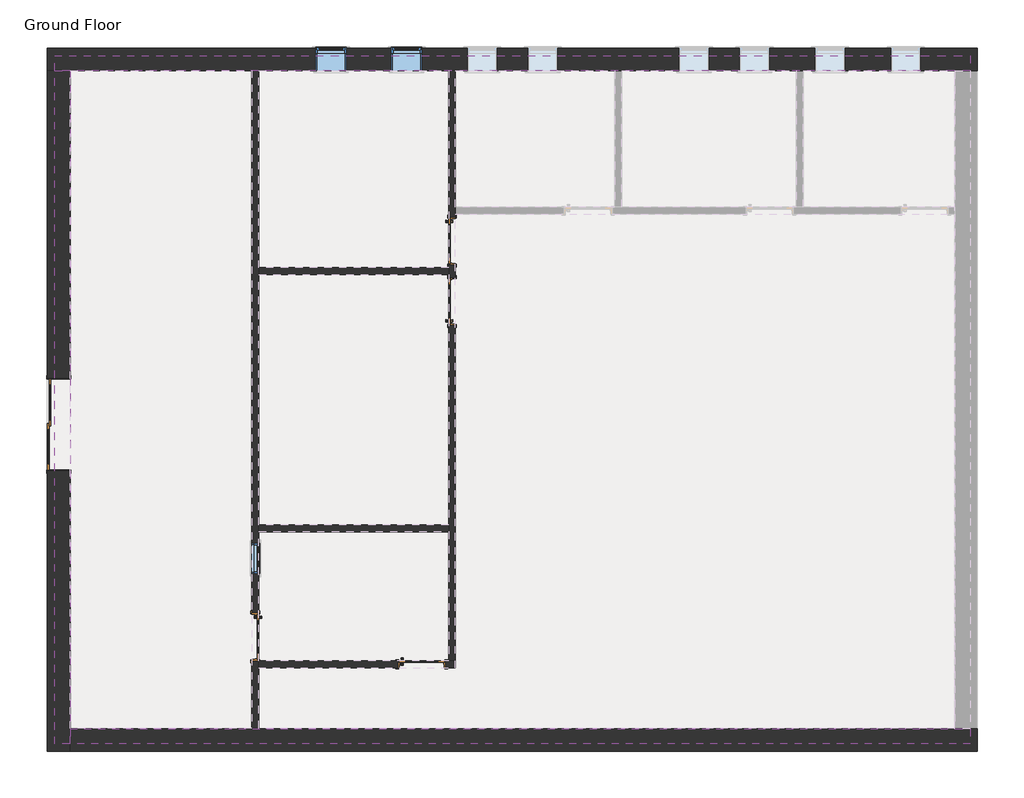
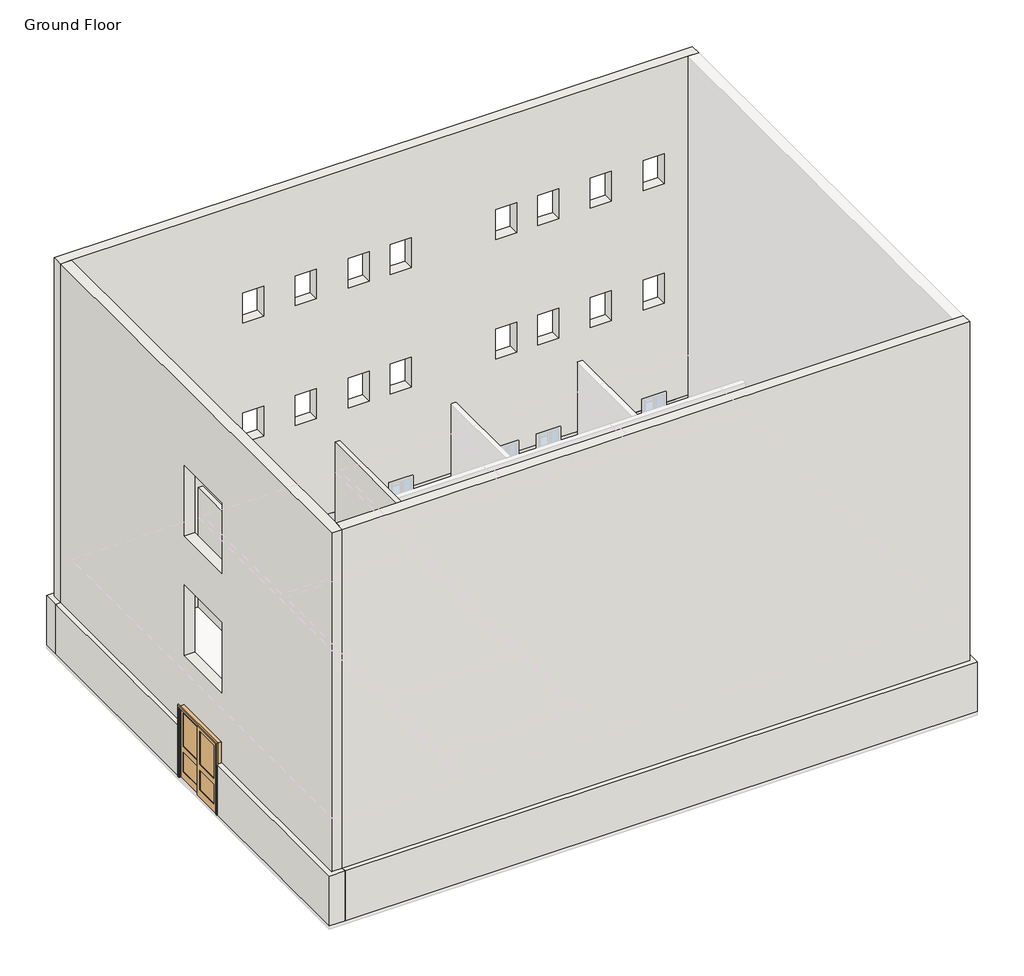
# One storey, part 1 of 2: 11 walls, 5 doors, 3 windows.
"""IFC4 building model written with IfcOpenShell, lengths in millimetres."""

from ifc_helpers import new_model, si_unit, origin, origin_with_axes, place, context, project, spatial, polyline, outline, extrude, faceted_brep, transform, mapped, element, save
from components import door_5c496fa4, door_918c180d, door_79dd3e86, window_d7bc73cd, window_2d4a29d0

model = new_model("IFC4")

# Units and contexts
model_context = context("Model", 3, world=origin())
ifc_project = project(units=[si_unit("LENGTHUNIT", "METRE", prefix="MILLI")], contexts=[model_context])

# Site, building, storey
site = spatial("IfcSite", under=ifc_project)
building = spatial("IfcBuilding", under=site)
storey = spatial("IfcBuildingStorey", under=building, Name="Ground Floor", Elevation=0.0)

# Doors
placement = place(None, origin())
door_shape = door_5c496fa4(model_context)
element("IfcDoor", 1, ObjectType="Door-Interior-Double-Sliding-2_Panel-Wood : 72\" x 84\"", at=placement, inside=storey, context=model_context, shape_type="MappedRepresentation", body=[
    mapped(door_shape, transform((-18194.5597136, 4559.7577587, 0.0), x_axis=(0.0, 1.0, 0.0), y_axis=(-1.0, 0.0, 0.0), z_axis=(0.0, 0.0, 1.0))),
])
door_2_shape = door_918c180d(model_context)
element("IfcDoor", 2, ObjectType="Door-Interior-Single-Full Glass-Wood : 36\" x 84\"", at=placement, inside=storey, context=model_context, shape_type="MappedRepresentation", body=[
    mapped(door_2_shape, transform((-14225.8097136, 277.7205992, 0.0), x_axis=(0.0, -1.0, 0.0), y_axis=(1.0, 0.0, 0.0), z_axis=(0.0, 0.0, 1.0))),
])
element("IfcDoor", 3, ObjectType="Door-Interior-Single-Full Glass-Wood : 36\" x 84\"", at=placement, inside=storey, context=model_context, shape_type="MappedRepresentation", body=[
    mapped(door_2_shape, transform((-10269.7597136, 7040.4705992, 0.0), x_axis=(0.0, 1.0, 0.0), y_axis=(-1.0, 0.0, 0.0), z_axis=(0.0, 0.0, 1.0))),
])
element("IfcDoor", 4, ObjectType="Door-Interior-Single-Full Glass-Wood : 36\" x 84\"", at=placement, inside=storey, context=model_context, shape_type="MappedRepresentation", body=[
    mapped(door_2_shape, transform((-10876.1847136, -271.5544008, 0.0), x_axis=(1.0, 0.0, 0.0), y_axis=(0.0, 1.0, 0.0), z_axis=(0.0, 0.0, 1.0))),
])
door_3_shape = door_79dd3e86(model_context)
element("IfcDoor", 5, ObjectType="Door-Interior-Single-Full Glass-Wood : 36\" x 84\"", at=placement, inside=storey, context=model_context, shape_type="MappedRepresentation", body=[
    mapped(door_3_shape, transform((-10269.7597136, 8259.6705992, 0.0), x_axis=(0.0, -1.0, 0.0), y_axis=(1.0, 0.0, 0.0), z_axis=(0.0, 0.0, 1.0))),
])

# Walls
element("IfcWall", 6, ObjectType="Exterior - CMU on Mtl. Stud", at=placement, inside=storey, context=model_context, shape_type="Brep", body=[
    faceted_brep([(-18418.3972136, 11690.2580992, 0.0), (-17964.3722136, 11690.2580992, 0.0), (-14298.8347136, 11690.2580992, 0.0), (-14159.1347136, 11690.2580992, 0.0), (-10336.4347136, 11690.2580992, 0.0), (-10196.7347136, 11690.2580992, 0.0), (-6983.6347136, 11690.2580992, 0.0), (-6843.9347136, 11690.2580992, 0.0), (-3326.0347136, 11690.2580992, 0.0), (-3186.3347136, 11690.2580992, 0.0), (-130.3972136, 11690.2580992, 0.0), (323.6277864, 11690.2580992, 0.0), (323.6277864, 11690.2580992, 1524.0), (180.7527864, 11690.2580992, 1524.0), (-130.3972136, 11690.2580992, 1524.0), (-817.7847136, 11690.2580992, 1524.0), (-817.7847136, 11690.2580992, 914.4), (-1427.3847136, 11690.2580992, 914.4), (-1427.3847136, 11690.2580992, 1524.0), (-2341.7847136, 11690.2580992, 1524.0), (-2341.7847136, 11690.2580992, 914.4), (-2951.3847136, 11690.2580992, 914.4), (-2951.3847136, 11690.2580992, 1524.0), (-3865.7847136, 11690.2580992, 1524.0), (-3865.7847136, 11690.2580992, 914.4), (-4475.3847136, 11690.2580992, 914.4), (-4475.3847136, 11690.2580992, 1524.0), (-5084.9847136, 11690.2580992, 1524.0), (-5084.9847136, 11690.2580992, 914.4), (-5694.5847136, 11690.2580992, 914.4), (-5694.5847136, 11690.2580992, 1524.0), (-8132.9847136, 11690.2580992, 1524.0), (-8132.9847136, 11690.2580992, 914.4), (-8742.5847136, 11690.2580992, 914.4), (-8742.5847136, 11690.2580992, 1524.0), (-9352.1847136, 11690.2580992, 1524.0), (-9352.1847136, 11690.2580992, 914.4), (-9961.7847136, 11690.2580992, 914.4), (-9961.7847136, 11690.2580992, 1524.0), (-10876.1847136, 11690.2580992, 1524.0), (-10876.1847136, 11690.2580992, 914.4), (-11485.7847136, 11690.2580992, 914.4), (-11485.7847136, 11690.2580992, 1524.0), (-12400.1847136, 11690.2580992, 1524.0), (-12400.1847136, 11690.2580992, 914.4), (-13009.7847136, 11690.2580992, 914.4), (-13009.7847136, 11690.2580992, 1524.0), (-17964.3722136, 11690.2580992, 1524.0), (-18275.5222136, 11690.2580992, 1524.0), (-18418.3972136, 11690.2580992, 1524.0), (323.6277864, 12144.2830992, 0.0), (-18418.3972136, 12144.2830992, 0.0), (-18418.3972136, 12144.2830992, 1524.0), (-13009.7847136, 12144.2830992, 1524.0), (-13009.7847136, 12144.2830992, 914.4), (-12400.1847136, 12144.2830992, 914.4), (-12400.1847136, 12144.2830992, 1524.0), (-11485.7847136, 12144.2830992, 1524.0), (-11485.7847136, 12144.2830992, 914.4), (-10876.1847136, 12144.2830992, 914.4), (-10876.1847136, 12144.2830992, 1524.0), (-9961.7847136, 12144.2830992, 1524.0), (-9961.7847136, 12144.2830992, 914.4), (-9352.1847136, 12144.2830992, 914.4), (-9352.1847136, 12144.2830992, 1524.0), (-8742.5847136, 12144.2830992, 1524.0), (-8742.5847136, 12144.2830992, 914.4), (-8132.9847136, 12144.2830992, 914.4), (-8132.9847136, 12144.2830992, 1524.0), (-5694.5847136, 12144.2830992, 1524.0), (-5694.5847136, 12144.2830992, 914.4), (-5084.9847136, 12144.2830992, 914.4), (-5084.9847136, 12144.2830992, 1524.0), (-4475.3847136, 12144.2830992, 1524.0), (-4475.3847136, 12144.2830992, 914.4), (-3865.7847136, 12144.2830992, 914.4), (-3865.7847136, 12144.2830992, 1524.0), (-2951.3847136, 12144.2830992, 1524.0), (-2951.3847136, 12144.2830992, 914.4), (-2341.7847136, 12144.2830992, 914.4), (-2341.7847136, 12144.2830992, 1524.0), (-1427.3847136, 12144.2830992, 1524.0), (-1427.3847136, 12144.2830992, 914.4), (-817.7847136, 12144.2830992, 914.4), (-817.7847136, 12144.2830992, 1524.0), (323.6277864, 12144.2830992, 1524.0), (-13009.7847136, 12001.4080992, 1524.0), (-817.7847136, 12001.4080992, 1524.0), (-1427.3847136, 12001.4080992, 1524.0), (-2341.7847136, 12001.4080992, 1524.0), (-2951.3847136, 12001.4080992, 1524.0), (-3865.7847136, 12001.4080992, 1524.0), (-4475.3847136, 12001.4080992, 1524.0), (-5084.9847136, 12001.4080992, 1524.0), (-5694.5847136, 12001.4080992, 1524.0), (-8132.9847136, 12001.4080992, 1524.0), (-8742.5847136, 12001.4080992, 1524.0), (-9352.1847136, 12001.4080992, 1524.0), (-9961.7847136, 12001.4080992, 1524.0), (-10876.1847136, 12001.4080992, 1524.0), (-11485.7847136, 12001.4080992, 1524.0), (-12400.1847136, 12001.4080992, 1524.0)], [[[0, 1, 2, 3, 4, 5, 6, 7, 8, 9, 10, 11, 12, 13, 14, 15, 16, 17, 18, 19, 20, 21, 22, 23, 24, 25, 26, 27, 28, 29, 30, 31, 32, 33, 34, 35, 36, 37, 38, 39, 40, 41, 42, 43, 44, 45, 46, 47, 48, 49]], [[50, 51, 52, 53, 54, 55, 56, 57, 58, 59, 60, 61, 62, 63, 64, 65, 66, 67, 68, 69, 70, 71, 72, 73, 74, 75, 76, 77, 78, 79, 80, 81, 82, 83, 84, 85]], [[11, 10, 9, 8, 7, 6, 5, 4, 3, 2, 1, 0, 51, 50]], [[52, 49, 48, 47, 46, 86, 53]], [[12, 85, 84, 87, 15, 14, 13]], [[18, 88, 81, 80, 89, 19]], [[22, 90, 77, 76, 91, 23]], [[26, 92, 73, 72, 93, 27]], [[30, 94, 69, 68, 95, 31]], [[34, 96, 65, 64, 97, 35]], [[38, 98, 61, 60, 99, 39]], [[42, 100, 57, 56, 101, 43]], [[0, 49, 52, 51]], [[12, 11, 50, 85]], [[83, 16, 15, 87, 84]], [[16, 83, 82, 17]], [[17, 82, 81, 88, 18]], [[79, 20, 19, 89, 80]], [[20, 79, 78, 21]], [[21, 78, 77, 90, 22]], [[75, 24, 23, 91, 76]], [[24, 75, 74, 25]], [[25, 74, 73, 92, 26]], [[71, 28, 27, 93, 72]], [[28, 71, 70, 29]], [[29, 70, 69, 94, 30]], [[33, 66, 65, 96, 34]], [[66, 33, 32, 67]], [[67, 32, 31, 95, 68]], [[37, 62, 61, 98, 38]], [[62, 37, 36, 63]], [[63, 36, 35, 97, 64]], [[41, 58, 57, 100, 42]], [[58, 41, 40, 59]], [[59, 40, 39, 99, 60]], [[45, 54, 53, 86, 46]], [[54, 45, 44, 55]], [[55, 44, 43, 101, 56]]]),
])
element("IfcWall", 7, ObjectType="Exterior - CMU on Mtl. Stud", at=placement, inside=storey, context=model_context, shape_type="Brep", body=[
    faceted_brep([(-17964.3722136, 11690.2580992, 0.0), (-17964.3722136, 11690.2580992, 1524.0), (-17964.3722136, 5499.5577587, 1524.0), (-17964.3722136, 5499.5577587, 0.0), (-18418.3972136, 11690.2580992, 1524.0), (-18418.3972136, 11690.2580992, 0.0), (-18418.3972136, 5499.5577587, 0.0), (-18418.3972136, 5499.5577587, 1524.0), (-18275.5222136, 11690.2580992, 1524.0), (-18275.5222136, 5499.5577587, 1524.0)], [[[0, 1, 2, 3]], [[4, 5, 6, 7]], [[5, 0, 3, 6]], [[1, 8, 4, 7, 9, 2]], [[1, 0, 5, 4, 8]], [[3, 2, 9, 7, 6]]]),
    faceted_brep([(-17964.3722136, -2025.7419008, 1524.0), (-17964.3722136, -2025.7419008, 0.0), (-17964.3722136, -1571.7169008, 0.0), (-17964.3722136, 3619.9577587, 0.0), (-17964.3722136, 3619.9577587, 1524.0), (-17964.3722136, -1571.7169008, 1524.0), (-17964.3722136, -1882.8669008, 1524.0), (-18418.3972136, -2025.7419008, 0.0), (-18418.3972136, -2025.7419008, 1524.0), (-18418.3972136, 3619.9577587, 1524.0), (-18418.3972136, 3619.9577587, 0.0), (-18275.5222136, 3619.9577587, 1524.0)], [[[0, 1, 2, 3, 4, 5, 6]], [[7, 8, 9, 10]], [[1, 7, 10, 3, 2]], [[8, 0, 6, 5, 4, 11, 9]], [[1, 0, 8, 7]], [[4, 3, 10, 9, 11]]]),
])
element("IfcWall", 8, ObjectType="Exterior - CMU on Mtl. Stud", at=placement, inside=storey, context=model_context, shape_type="Brep", body=[
    faceted_brep([(323.6277864, -1571.7169008, 0.0), (-130.3972136, -1571.7169008, 0.0), (-14159.1347136, -1571.7169008, 0.0), (-14298.8347136, -1571.7169008, 0.0), (-17964.3722136, -1571.7169008, 0.0), (-17964.3722136, -1571.7169008, 1524.0), (-130.3972136, -1571.7169008, 1524.0), (180.7527864, -1571.7169008, 1524.0), (323.6277864, -1571.7169008, 1524.0), (323.6277864, -2025.7419008, 0.0), (323.6277864, -2025.7419008, 1524.0), (-17964.3722136, -2025.7419008, 1524.0), (-17964.3722136, -2025.7419008, 0.0), (-17964.3722136, -1882.8669008, 1524.0)], [[[0, 1, 2, 3, 4, 5, 6, 7, 8]], [[9, 10, 11, 12]], [[4, 3, 2, 1, 0, 9, 12]], [[8, 7, 6, 5, 13, 11, 10]], [[0, 8, 10, 9]], [[5, 4, 12, 11, 13]]]),
])
element("IfcWall", 9, ObjectType="Exterior - EIFS on Mtl. Stud", at=placement, inside=storey, context=model_context, shape_type="Brep", body=[
    faceted_brep([(180.7527864, 11690.2580992, 11887.2), (-130.3972136, 11690.2580992, 11887.2), (-17964.3722136, 11690.2580992, 11887.2), (-18275.5222136, 11690.2580992, 11887.2), (-18275.5222136, 11690.2580992, 1524.0), (-17964.3722136, 11690.2580992, 1524.0), (-13009.7847136, 11690.2580992, 1524.0), (-13009.7847136, 11690.2580992, 1828.8), (-12400.1847136, 11690.2580992, 1828.8), (-12400.1847136, 11690.2580992, 1524.0), (-11485.7847136, 11690.2580992, 1524.0), (-11485.7847136, 11690.2580992, 1828.8), (-10876.1847136, 11690.2580992, 1828.8), (-10876.1847136, 11690.2580992, 1524.0), (-9961.7847136, 11690.2580992, 1524.0), (-9961.7847136, 11690.2580992, 1828.8), (-9352.1847136, 11690.2580992, 1828.8), (-9352.1847136, 11690.2580992, 1524.0), (-8742.5847136, 11690.2580992, 1524.0), (-8742.5847136, 11690.2580992, 1828.8), (-8132.9847136, 11690.2580992, 1828.8), (-8132.9847136, 11690.2580992, 1524.0), (-5694.5847136, 11690.2580992, 1524.0), (-5694.5847136, 11690.2580992, 1828.8), (-5084.9847136, 11690.2580992, 1828.8), (-5084.9847136, 11690.2580992, 1524.0), (-4475.3847136, 11690.2580992, 1524.0), (-4475.3847136, 11690.2580992, 1828.8), (-3865.7847136, 11690.2580992, 1828.8), (-3865.7847136, 11690.2580992, 1524.0), (-2951.3847136, 11690.2580992, 1524.0), (-2951.3847136, 11690.2580992, 1828.8), (-2341.7847136, 11690.2580992, 1828.8), (-2341.7847136, 11690.2580992, 1524.0), (-1427.3847136, 11690.2580992, 1524.0), (-1427.3847136, 11690.2580992, 1828.8), (-817.7847136, 11690.2580992, 1828.8), (-817.7847136, 11690.2580992, 1524.0), (-130.3972136, 11690.2580992, 1524.0), (180.7527864, 11690.2580992, 1524.0), (-8742.5847136, 11690.2580992, 4572.0), (-8742.5847136, 11690.2580992, 5486.4), (-8132.9847136, 11690.2580992, 5486.4), (-8132.9847136, 11690.2580992, 4572.0), (-9961.7847136, 11690.2580992, 4572.0), (-9961.7847136, 11690.2580992, 5486.4), (-9352.1847136, 11690.2580992, 5486.4), (-9352.1847136, 11690.2580992, 4572.0), (-11485.7847136, 11690.2580992, 4572.0), (-11485.7847136, 11690.2580992, 5486.4), (-10876.1847136, 11690.2580992, 5486.4), (-10876.1847136, 11690.2580992, 4572.0), (-13009.7847136, 11690.2580992, 4572.0), (-13009.7847136, 11690.2580992, 5486.4), (-12400.1847136, 11690.2580992, 5486.4), (-12400.1847136, 11690.2580992, 4572.0), (-5084.9847136, 11690.2580992, 5486.4), (-5084.9847136, 11690.2580992, 4572.0), (-5694.5847136, 11690.2580992, 4572.0), (-5694.5847136, 11690.2580992, 5486.4), (-3865.7847136, 11690.2580992, 5486.4), (-3865.7847136, 11690.2580992, 4572.0), (-4475.3847136, 11690.2580992, 4572.0), (-4475.3847136, 11690.2580992, 5486.4), (-2341.7847136, 11690.2580992, 5486.4), (-2341.7847136, 11690.2580992, 4572.0), (-2951.3847136, 11690.2580992, 4572.0), (-2951.3847136, 11690.2580992, 5486.4), (-817.7847136, 11690.2580992, 5486.4), (-817.7847136, 11690.2580992, 4572.0), (-1427.3847136, 11690.2580992, 4572.0), (-1427.3847136, 11690.2580992, 5486.4), (-8742.5847136, 11690.2580992, 8229.6), (-8742.5847136, 11690.2580992, 9144.0), (-8132.9847136, 11690.2580992, 9144.0), (-8132.9847136, 11690.2580992, 8229.6), (-9961.7847136, 11690.2580992, 8229.6), (-9961.7847136, 11690.2580992, 9144.0), (-9352.1847136, 11690.2580992, 9144.0), (-9352.1847136, 11690.2580992, 8229.6), (-11485.7847136, 11690.2580992, 8229.6), (-11485.7847136, 11690.2580992, 9144.0), (-10876.1847136, 11690.2580992, 9144.0), (-10876.1847136, 11690.2580992, 8229.6), (-13009.7847136, 11690.2580992, 8229.6), (-13009.7847136, 11690.2580992, 9144.0), (-12400.1847136, 11690.2580992, 9144.0), (-12400.1847136, 11690.2580992, 8229.6), (-5084.9847136, 11690.2580992, 9144.0), (-5084.9847136, 11690.2580992, 8229.6), (-5694.5847136, 11690.2580992, 8229.6), (-5694.5847136, 11690.2580992, 9144.0), (-3865.7847136, 11690.2580992, 9144.0), (-3865.7847136, 11690.2580992, 8229.6), (-4475.3847136, 11690.2580992, 8229.6), (-4475.3847136, 11690.2580992, 9144.0), (-2341.7847136, 11690.2580992, 9144.0), (-2341.7847136, 11690.2580992, 8229.6), (-2951.3847136, 11690.2580992, 8229.6), (-2951.3847136, 11690.2580992, 9144.0), (-817.7847136, 11690.2580992, 9144.0), (-817.7847136, 11690.2580992, 8229.6), (-1427.3847136, 11690.2580992, 8229.6), (-1427.3847136, 11690.2580992, 9144.0), (-18275.5222136, 12001.4080992, 11887.2), (180.7527864, 12001.4080992, 11887.2), (180.7527864, 12001.4080992, 1524.0), (-817.7847136, 12001.4080992, 1524.0), (-817.7847136, 12001.4080992, 1828.8), (-1427.3847136, 12001.4080992, 1828.8), (-1427.3847136, 12001.4080992, 1524.0), (-2341.7847136, 12001.4080992, 1524.0), (-2341.7847136, 12001.4080992, 1828.8), (-2951.3847136, 12001.4080992, 1828.8), (-2951.3847136, 12001.4080992, 1524.0), (-3865.7847136, 12001.4080992, 1524.0), (-3865.7847136, 12001.4080992, 1828.8), (-4475.3847136, 12001.4080992, 1828.8), (-4475.3847136, 12001.4080992, 1524.0), (-5084.9847136, 12001.4080992, 1524.0), (-5084.9847136, 12001.4080992, 1828.8), (-5694.5847136, 12001.4080992, 1828.8), (-5694.5847136, 12001.4080992, 1524.0), (-8132.9847136, 12001.4080992, 1524.0), (-8132.9847136, 12001.4080992, 1828.8), (-8742.5847136, 12001.4080992, 1828.8), (-8742.5847136, 12001.4080992, 1524.0), (-9352.1847136, 12001.4080992, 1524.0), (-9352.1847136, 12001.4080992, 1828.8), (-9961.7847136, 12001.4080992, 1828.8), (-9961.7847136, 12001.4080992, 1524.0), (-10876.1847136, 12001.4080992, 1524.0), (-10876.1847136, 12001.4080992, 1828.8), (-11485.7847136, 12001.4080992, 1828.8), (-11485.7847136, 12001.4080992, 1524.0), (-12400.1847136, 12001.4080992, 1524.0), (-12400.1847136, 12001.4080992, 1828.8), (-13009.7847136, 12001.4080992, 1828.8), (-13009.7847136, 12001.4080992, 1524.0), (-18275.5222136, 12001.4080992, 1524.0), (-8742.5847136, 12001.4080992, 5486.4), (-8742.5847136, 12001.4080992, 4572.0), (-8132.9847136, 12001.4080992, 4572.0), (-8132.9847136, 12001.4080992, 5486.4), (-9961.7847136, 12001.4080992, 5486.4), (-9961.7847136, 12001.4080992, 4572.0), (-9352.1847136, 12001.4080992, 4572.0), (-9352.1847136, 12001.4080992, 5486.4), (-11485.7847136, 12001.4080992, 5486.4), (-11485.7847136, 12001.4080992, 4572.0), (-10876.1847136, 12001.4080992, 4572.0), (-10876.1847136, 12001.4080992, 5486.4), (-13009.7847136, 12001.4080992, 5486.4), (-13009.7847136, 12001.4080992, 4572.0), (-12400.1847136, 12001.4080992, 4572.0), (-12400.1847136, 12001.4080992, 5486.4), (-5084.9847136, 12001.4080992, 4572.0), (-5084.9847136, 12001.4080992, 5486.4), (-5694.5847136, 12001.4080992, 5486.4), (-5694.5847136, 12001.4080992, 4572.0), (-3865.7847136, 12001.4080992, 4572.0), (-3865.7847136, 12001.4080992, 5486.4), (-4475.3847136, 12001.4080992, 5486.4), (-4475.3847136, 12001.4080992, 4572.0), (-2341.7847136, 12001.4080992, 4572.0), (-2341.7847136, 12001.4080992, 5486.4), (-2951.3847136, 12001.4080992, 5486.4), (-2951.3847136, 12001.4080992, 4572.0), (-817.7847136, 12001.4080992, 4572.0), (-817.7847136, 12001.4080992, 5486.4), (-1427.3847136, 12001.4080992, 5486.4), (-1427.3847136, 12001.4080992, 4572.0), (-8742.5847136, 12001.4080992, 9144.0), (-8742.5847136, 12001.4080992, 8229.6), (-8132.9847136, 12001.4080992, 8229.6), (-8132.9847136, 12001.4080992, 9144.0), (-9961.7847136, 12001.4080992, 9144.0), (-9961.7847136, 12001.4080992, 8229.6), (-9352.1847136, 12001.4080992, 8229.6), (-9352.1847136, 12001.4080992, 9144.0), (-11485.7847136, 12001.4080992, 9144.0), (-11485.7847136, 12001.4080992, 8229.6), (-10876.1847136, 12001.4080992, 8229.6), (-10876.1847136, 12001.4080992, 9144.0), (-13009.7847136, 12001.4080992, 9144.0), (-13009.7847136, 12001.4080992, 8229.6), (-12400.1847136, 12001.4080992, 8229.6), (-12400.1847136, 12001.4080992, 9144.0), (-5084.9847136, 12001.4080992, 8229.6), (-5084.9847136, 12001.4080992, 9144.0), (-5694.5847136, 12001.4080992, 9144.0), (-5694.5847136, 12001.4080992, 8229.6), (-3865.7847136, 12001.4080992, 8229.6), (-3865.7847136, 12001.4080992, 9144.0), (-4475.3847136, 12001.4080992, 9144.0), (-4475.3847136, 12001.4080992, 8229.6), (-2341.7847136, 12001.4080992, 8229.6), (-2341.7847136, 12001.4080992, 9144.0), (-2951.3847136, 12001.4080992, 9144.0), (-2951.3847136, 12001.4080992, 8229.6), (-817.7847136, 12001.4080992, 8229.6), (-817.7847136, 12001.4080992, 9144.0), (-1427.3847136, 12001.4080992, 9144.0), (-1427.3847136, 12001.4080992, 8229.6)], [[[0, 1, 2, 3, 4, 5, 6, 7, 8, 9, 10, 11, 12, 13, 14, 15, 16, 17, 18, 19, 20, 21, 22, 23, 24, 25, 26, 27, 28, 29, 30, 31, 32, 33, 34, 35, 36, 37, 38, 39], [40, 41, 42, 43], [44, 45, 46, 47], [48, 49, 50, 51], [52, 53, 54, 55], [56, 57, 58, 59], [60, 61, 62, 63], [64, 65, 66, 67], [68, 69, 70, 71], [72, 73, 74, 75], [76, 77, 78, 79], [80, 81, 82, 83], [84, 85, 86, 87], [88, 89, 90, 91], [92, 93, 94, 95], [96, 97, 98, 99], [100, 101, 102, 103]], [[104, 105, 106, 107, 108, 109, 110, 111, 112, 113, 114, 115, 116, 117, 118, 119, 120, 121, 122, 123, 124, 125, 126, 127, 128, 129, 130, 131, 132, 133, 134, 135, 136, 137, 138, 139], [140, 141, 142, 143], [144, 145, 146, 147], [148, 149, 150, 151], [152, 153, 154, 155], [156, 157, 158, 159], [160, 161, 162, 163], [164, 165, 166, 167], [168, 169, 170, 171], [172, 173, 174, 175], [176, 177, 178, 179], [180, 181, 182, 183], [184, 185, 186, 187], [188, 189, 190, 191], [192, 193, 194, 195], [196, 197, 198, 199], [200, 201, 202, 203]], [[4, 139, 138, 6, 5]], [[106, 39, 38, 37, 107]], [[110, 34, 33, 111]], [[114, 30, 29, 115]], [[118, 26, 25, 119]], [[122, 22, 21, 123]], [[126, 18, 17, 127]], [[130, 14, 13, 131]], [[134, 10, 9, 135]], [[3, 2, 1, 0, 105, 104]], [[4, 3, 104, 139]], [[0, 39, 106, 105]], [[36, 108, 107, 37]], [[109, 35, 34, 110]], [[108, 36, 35, 109]], [[32, 112, 111, 33]], [[113, 31, 30, 114]], [[112, 32, 31, 113]], [[28, 116, 115, 29]], [[117, 27, 26, 118]], [[116, 28, 27, 117]], [[24, 120, 119, 25]], [[121, 23, 22, 122]], [[120, 24, 23, 121]], [[125, 19, 18, 126]], [[20, 124, 123, 21]], [[19, 125, 124, 20]], [[129, 15, 14, 130]], [[16, 128, 127, 17]], [[15, 129, 128, 16]], [[133, 11, 10, 134]], [[12, 132, 131, 13]], [[11, 133, 132, 12]], [[137, 7, 6, 138]], [[8, 136, 135, 9]], [[7, 137, 136, 8]], [[140, 41, 40, 141]], [[141, 40, 43, 142]], [[142, 43, 42, 143]], [[41, 140, 143, 42]], [[144, 45, 44, 145]], [[145, 44, 47, 146]], [[146, 47, 46, 147]], [[45, 144, 147, 46]], [[148, 49, 48, 149]], [[149, 48, 51, 150]], [[150, 51, 50, 151]], [[49, 148, 151, 50]], [[152, 53, 52, 153]], [[153, 52, 55, 154]], [[154, 55, 54, 155]], [[53, 152, 155, 54]], [[56, 157, 156, 57]], [[57, 156, 159, 58]], [[58, 159, 158, 59]], [[157, 56, 59, 158]], [[60, 161, 160, 61]], [[61, 160, 163, 62]], [[62, 163, 162, 63]], [[161, 60, 63, 162]], [[64, 165, 164, 65]], [[65, 164, 167, 66]], [[66, 167, 166, 67]], [[165, 64, 67, 166]], [[68, 169, 168, 69]], [[69, 168, 171, 70]], [[70, 171, 170, 71]], [[169, 68, 71, 170]], [[172, 73, 72, 173]], [[173, 72, 75, 174]], [[174, 75, 74, 175]], [[73, 172, 175, 74]], [[176, 77, 76, 177]], [[177, 76, 79, 178]], [[178, 79, 78, 179]], [[77, 176, 179, 78]], [[180, 81, 80, 181]], [[181, 80, 83, 182]], [[182, 83, 82, 183]], [[81, 180, 183, 82]], [[184, 85, 84, 185]], [[185, 84, 87, 186]], [[186, 87, 86, 187]], [[85, 184, 187, 86]], [[88, 189, 188, 89]], [[89, 188, 191, 90]], [[90, 191, 190, 91]], [[189, 88, 91, 190]], [[92, 193, 192, 93]], [[93, 192, 195, 94]], [[94, 195, 194, 95]], [[193, 92, 95, 194]], [[96, 197, 196, 97]], [[97, 196, 199, 98]], [[98, 199, 198, 99]], [[197, 96, 99, 198]], [[100, 201, 200, 101]], [[101, 200, 203, 102]], [[102, 203, 202, 103]], [[201, 100, 103, 202]]]),
])
element("IfcWall", 10, ObjectType="Exterior - EIFS on Mtl. Stud", at=placement, inside=storey, context=model_context, shape_type="Brep", body=[
    faceted_brep([(-17964.3722136, 11690.2580992, 11887.2), (-17964.3722136, -1571.7169008, 11887.2), (-17964.3722136, -1882.8669008, 11887.2), (-17964.3722136, -1882.8669008, 1524.0), (-17964.3722136, -1571.7169008, 1524.0), (-17964.3722136, 3619.9577587, 1524.0), (-17964.3722136, 3619.9577587, 2159.0), (-17964.3722136, 5499.5577587, 2159.0), (-17964.3722136, 5499.5577587, 1524.0), (-17964.3722136, 11690.2580992, 1524.0), (-17964.3722136, 5499.5577587, 5816.6), (-17964.3722136, 5499.5577587, 3657.6), (-17964.3722136, 3619.9577587, 3657.6), (-17964.3722136, 3619.9577587, 5816.6), (-17964.3722136, 5499.5577587, 9474.2), (-17964.3722136, 5499.5577587, 7315.2), (-17964.3722136, 3619.9577587, 7315.2), (-17964.3722136, 3619.9577587, 9474.2), (-18275.5222136, -1882.8669008, 11887.2), (-18275.5222136, 11690.2580992, 11887.2), (-18275.5222136, 11690.2580992, 1524.0), (-18275.5222136, 5499.5577587, 1524.0), (-18275.5222136, 5499.5577587, 2159.0), (-18275.5222136, 3619.9577587, 2159.0), (-18275.5222136, 3619.9577587, 1524.0), (-18275.5222136, -1882.8669008, 1524.0), (-18275.5222136, 5499.5577587, 3657.6), (-18275.5222136, 5499.5577587, 5816.6), (-18275.5222136, 3619.9577587, 5816.6), (-18275.5222136, 3619.9577587, 3657.6), (-18275.5222136, 5499.5577587, 7315.2), (-18275.5222136, 5499.5577587, 9474.2), (-18275.5222136, 3619.9577587, 9474.2), (-18275.5222136, 3619.9577587, 7315.2)], [[[0, 1, 2, 3, 4, 5, 6, 7, 8, 9], [10, 11, 12, 13], [14, 15, 16, 17]], [[18, 19, 20, 21, 22, 23, 24, 25], [26, 27, 28, 29], [30, 31, 32, 33]], [[3, 25, 24, 5, 4]], [[20, 9, 8, 21]], [[2, 1, 0, 19, 18]], [[3, 2, 18, 25]], [[0, 9, 20, 19]], [[7, 22, 21, 8]], [[22, 7, 6, 23]], [[23, 6, 5, 24]], [[26, 11, 10, 27]], [[27, 10, 13, 28]], [[28, 13, 12, 29]], [[11, 26, 29, 12]], [[30, 15, 14, 31]], [[31, 14, 17, 32]], [[32, 17, 16, 33]], [[15, 30, 33, 16]]]),
])
element("IfcWall", 11, ObjectType="Exterior - EIFS on Mtl. Stud", at=placement, inside=storey, context=model_context, shape_type="Brep", body=[
    faceted_brep([(180.7527864, -1571.7169008, 1524.0), (-130.3972136, -1571.7169008, 1524.0), (-17964.3722136, -1571.7169008, 1524.0), (-17964.3722136, -1571.7169008, 11887.2), (-130.3972136, -1571.7169008, 11887.2), (180.7527864, -1571.7169008, 11887.2), (180.7527864, -1882.8669008, 1524.0), (180.7527864, -1882.8669008, 11887.2), (-17964.3722136, -1882.8669008, 11887.2), (-17964.3722136, -1882.8669008, 1524.0)], [[[0, 1, 2, 3, 4, 5]], [[6, 7, 8, 9]], [[2, 1, 0, 6, 9]], [[5, 4, 3, 8, 7]], [[0, 5, 7, 6]], [[3, 2, 9, 8]]]),
])
element("IfcWall", 12, ObjectType="Interior - 5 1/2\" Partition (1-hr)", at=placement, inside=storey, context=model_context, shape_type="Brep", body=[
    faceted_brep([(-14298.8347136, -1571.7169008, 3657.6), (-14298.8347136, 11690.2580992, 3657.6), (-14298.8347136, 11690.2580992, 0.0), (-14298.8347136, 760.3205992, 0.0), (-14298.8347136, 760.3205992, 2159.0), (-14298.8347136, -204.8794008, 2159.0), (-14298.8347136, -204.8794008, 0.0), (-14298.8347136, -1571.7169008, 0.0), (-14298.8347136, 1554.0705992, 1828.8), (-14298.8347136, 1554.0705992, 914.4), (-14298.8347136, 2163.6705992, 914.4), (-14298.8347136, 2163.6705992, 1828.8), (-14159.1347136, 11690.2580992, 3657.6), (-14159.1347136, 7719.9205992, 3657.6), (-14159.1347136, 7580.2205992, 3657.6), (-14159.1347136, 2538.3205992, 3657.6), (-14159.1347136, 2398.6205992, 3657.6), (-14159.1347136, -204.8794008, 3657.6), (-14159.1347136, -344.5794008, 3657.6), (-14159.1347136, -1571.7169008, 3657.6), (-14159.1347136, -1571.7169008, 0.0), (-14159.1347136, -344.5794008, 0.0), (-14159.1347136, -204.8794008, 0.0), (-14159.1347136, -204.8794008, 2159.0), (-14159.1347136, 760.3205992, 2159.0), (-14159.1347136, 760.3205992, 0.0), (-14159.1347136, 2398.6205992, 0.0), (-14159.1347136, 2538.3205992, 0.0), (-14159.1347136, 7580.2205992, 0.0), (-14159.1347136, 7719.9205992, 0.0), (-14159.1347136, 11690.2580992, 0.0), (-14159.1347136, 1554.0705992, 1828.8), (-14159.1347136, 2163.6705992, 1828.8), (-14159.1347136, 2163.6705992, 914.4), (-14159.1347136, 1554.0705992, 914.4)], [[[0, 1, 2, 3, 4, 5, 6, 7], [8, 9, 10, 11]], [[12, 13, 14, 15, 16, 17, 18, 19, 20, 21, 22, 23, 24, 25, 26, 27, 28, 29, 30], [31, 32, 33, 34]], [[2, 30, 29, 28, 27, 26, 25, 3]], [[20, 7, 6, 22, 21]], [[1, 0, 19, 18, 17, 16, 15, 14, 13, 12]], [[30, 2, 1, 12]], [[7, 20, 19, 0]], [[5, 23, 22, 6]], [[23, 5, 4, 24]], [[24, 4, 3, 25]], [[9, 8, 31, 34]], [[10, 9, 34, 33]], [[11, 10, 33, 32]], [[8, 11, 32, 31]]]),
])
element("IfcWall", 13, ObjectType="Interior - 5 1/2\" Partition (1-hr)", at=placement, inside=storey, context=model_context, shape_type="Brep", body=[
    faceted_brep([(-10196.7347136, -344.5794008, 3657.6), (-14159.1347136, -344.5794008, 3657.6), (-14159.1347136, -344.5794008, 0.0), (-11358.7847136, -344.5794008, 0.0), (-11358.7847136, -344.5794008, 2159.0), (-10393.5847136, -344.5794008, 2159.0), (-10393.5847136, -344.5794008, 0.0), (-10196.7347136, -344.5794008, 0.0), (-14159.1347136, -204.8794008, 3657.6), (-10336.4347136, -204.8794008, 3657.6), (-10196.7347136, -204.8794008, 3657.6), (-10196.7347136, -204.8794008, 0.0), (-10336.4347136, -204.8794008, 0.0), (-10393.5847136, -204.8794008, 0.0), (-10393.5847136, -204.8794008, 2159.0), (-11358.7847136, -204.8794008, 2159.0), (-11358.7847136, -204.8794008, 0.0), (-14159.1347136, -204.8794008, 0.0), (-14159.1347136, -204.8794008, 2159.0)], [[[0, 1, 2, 3, 4, 5, 6, 7]], [[8, 9, 10, 11, 12, 13, 14, 15, 16, 17, 18]], [[2, 17, 16, 3]], [[11, 7, 6, 13, 12]], [[1, 0, 10, 9, 8]], [[2, 1, 8, 18, 17]], [[0, 7, 11, 10]], [[5, 14, 13, 6]], [[14, 5, 4, 15]], [[15, 4, 3, 16]]]),
])
element("IfcWall", 14, ObjectType="Interior - 5 1/2\" Partition (1-hr)", at=placement, inside=storey, context=model_context, shape_type="Brep", body=[
    faceted_brep([(-10196.7347136, 11690.2580992, 3657.6), (-10196.7347136, 8939.1205992, 3657.6), (-10196.7347136, 8799.4205992, 3657.6), (-10196.7347136, -204.8794008, 3657.6), (-10196.7347136, -204.8794008, 0.0), (-10196.7347136, 6557.8705992, 0.0), (-10196.7347136, 6557.8705992, 2159.0), (-10196.7347136, 7523.0705992, 2159.0), (-10196.7347136, 7523.0705992, 0.0), (-10196.7347136, 7777.0705992, 0.0), (-10196.7347136, 7777.0705992, 2159.0), (-10196.7347136, 8742.2705992, 2159.0), (-10196.7347136, 8742.2705992, 0.0), (-10196.7347136, 8799.4205992, 0.0), (-10196.7347136, 8939.1205992, 0.0), (-10196.7347136, 11690.2580992, 0.0), (-10336.4347136, -204.8794008, 3657.6), (-10336.4347136, 2398.6205992, 3657.6), (-10336.4347136, 2538.3205992, 3657.6), (-10336.4347136, 7580.2205992, 3657.6), (-10336.4347136, 7719.9205992, 3657.6), (-10336.4347136, 11690.2580992, 3657.6), (-10336.4347136, 11690.2580992, 0.0), (-10336.4347136, 8742.2705992, 0.0), (-10336.4347136, 8742.2705992, 2159.0), (-10336.4347136, 7777.0705992, 2159.0), (-10336.4347136, 7777.0705992, 0.0), (-10336.4347136, 7719.9205992, 0.0), (-10336.4347136, 7580.2205992, 0.0), (-10336.4347136, 7523.0705992, 0.0), (-10336.4347136, 7523.0705992, 2159.0), (-10336.4347136, 6557.8705992, 2159.0), (-10336.4347136, 6557.8705992, 0.0), (-10336.4347136, 2538.3205992, 0.0), (-10336.4347136, 2398.6205992, 0.0), (-10336.4347136, -204.8794008, 0.0)], [[[0, 1, 2, 3, 4, 5, 6, 7, 8, 9, 10, 11, 12, 13, 14, 15]], [[16, 17, 18, 19, 20, 21, 22, 23, 24, 25, 26, 27, 28, 29, 30, 31, 32, 33, 34, 35]], [[4, 35, 34, 33, 32, 5]], [[22, 15, 14, 13, 12, 23]], [[8, 29, 28, 27, 26, 9]], [[3, 2, 1, 0, 21, 20, 19, 18, 17, 16]], [[4, 3, 16, 35]], [[15, 22, 21, 0]], [[7, 30, 29, 8]], [[30, 7, 6, 31]], [[31, 6, 5, 32]], [[25, 10, 9, 26]], [[10, 25, 24, 11]], [[11, 24, 23, 12]]]),
])
element("IfcWall", 15, ObjectType="Interior - 5 1/2\" Partition (1-hr)", at=placement, inside=storey, context=model_context, shape_type="SweptSolid", body=[
    extrude(outline(polyline([(-10336.4347136, 7580.2205992), (-14159.1347136, 7580.2205992), (-14159.1347136, 7719.9205992), (-10336.4347136, 7719.9205992), (-10336.4347136, 7580.2205992)])), origin_with_axes(), (0.0, 0.0, 1.0), 3657.6),
])
element("IfcWall", 16, ObjectType="Interior - 5 1/2\" Partition (1-hr)", at=placement, inside=storey, context=model_context, shape_type="SweptSolid", body=[
    extrude(outline(polyline([(-10336.4347136, 2398.6205992), (-14159.1347136, 2398.6205992), (-14159.1347136, 2538.3205992), (-10336.4347136, 2538.3205992), (-10336.4347136, 2398.6205992)])), origin_with_axes(), (0.0, 0.0, 1.0), 3657.6),
])

# Windows
window_shape = window_d7bc73cd(model_context)
element("IfcWindow", 17, ObjectType="Window-Awning-Single : 24\" x 36\"", at=placement, inside=storey, context=model_context, shape_type="MappedRepresentation", body=[
    mapped(window_shape, transform((-14228.9847136, 1858.8705992, 0.0), x_axis=(0.0, -1.0, 0.0), y_axis=(1.0, 0.0, 0.0), z_axis=(0.0, 0.0, 1.0))),
])
window_2_shape = window_2d4a29d0(model_context)
element("IfcWindow", 18, ObjectType="Window-Awning-Single : 24\" x 36\"", at=placement, inside=storey, context=model_context, shape_type="MappedRepresentation", body=[
    mapped(window_2_shape, transform((-12704.9847136, 11917.2705992, 0.0), x_axis=(-1.0, 0.0, 0.0), y_axis=(0.0, -1.0, 0.0), z_axis=(0.0, 0.0, 1.0))),
])
element("IfcWindow", 19, ObjectType="Window-Awning-Single : 24\" x 36\"", at=placement, inside=storey, context=model_context, shape_type="MappedRepresentation", body=[
    mapped(window_2_shape, transform((-11180.9847136, 11917.2705992, 0.0), x_axis=(-1.0, 0.0, 0.0), y_axis=(0.0, -1.0, 0.0), z_axis=(0.0, 0.0, 1.0))),
])

save(model, "model.ifc")
